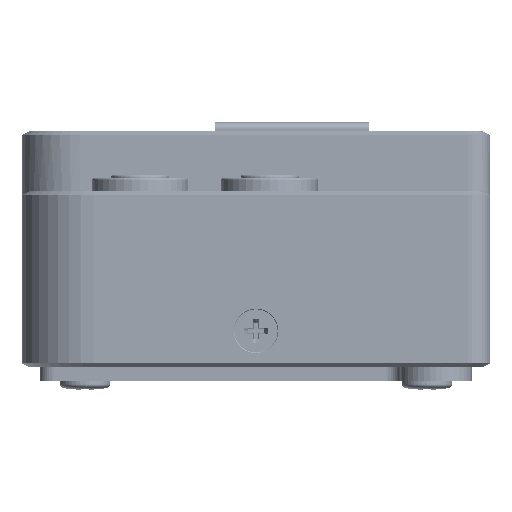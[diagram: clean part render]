
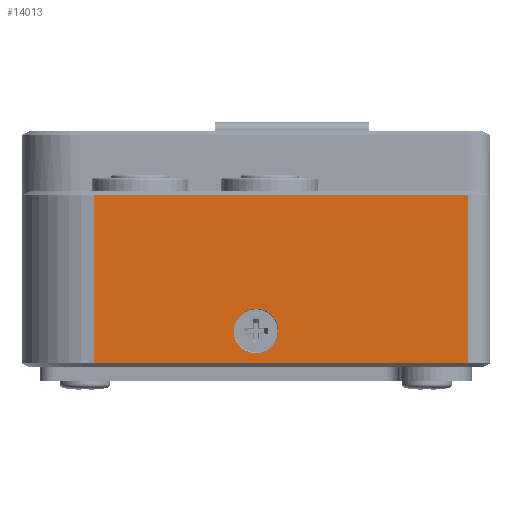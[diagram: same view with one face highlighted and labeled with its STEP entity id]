
A CAD part, left-side view. The second image highlights one B-rep face of the part: STEP entity #14013.
In plain terms, the highlighted planar face has unit normal (-1, 0, 0).
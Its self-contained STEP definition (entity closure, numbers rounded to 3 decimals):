
#686=DIRECTION('',(0.,-1.,0.));
#687=VECTOR('',#686,52.);
#688=CARTESIAN_POINT('',(-60.,21.5,-8.3));
#689=LINE('',#688,#687);
#693=DIRECTION('',(0.,1.,0.));
#694=VECTOR('',#693,52.);
#695=CARTESIAN_POINT('',(-60.,-30.5,
-31.7));
#696=LINE('',#695,#694);
#700=CARTESIAN_POINT('',(-60.,-1.,-27.2));
#701=DIRECTION('',(-1.,0.,0.));
#702=DIRECTION('',(0.,-1.,0.));
#703=AXIS2_PLACEMENT_3D('',#700,#701,#702);
#708=CARTESIAN_POINT('',(-60.,-1.,-27.2));
#709=DIRECTION('',(-1.,0.,0.));
#710=DIRECTION('',(0.,0.,1.));
#711=AXIS2_PLACEMENT_3D('',#708,#709,#710);
#716=CARTESIAN_POINT('',(-60.,-1.,-27.2));
#717=DIRECTION('',(-1.,0.,0.));
#718=DIRECTION('',(0.,1.,0.));
#719=AXIS2_PLACEMENT_3D('',#716,#717,#718);
#724=CARTESIAN_POINT('',(-60.,-1.,-27.2));
#725=DIRECTION('',(-1.,0.,0.));
#726=DIRECTION('',(0.,0.,-1.));
#727=AXIS2_PLACEMENT_3D('',#724,#725,#726);
#739=DIRECTION('',(0.,0.,1.));
#740=VECTOR('',#739,23.4);
#741=CARTESIAN_POINT('',(-60.,-30.5,
-31.7));
#742=LINE('',#741,#740);
#1114=DIRECTION('',(0.,0.,-1.));
#1115=VECTOR('',#1114,23.4);
#1116=CARTESIAN_POINT('',(-60.,21.5,
-8.3));
#1117=LINE('',#1116,#1115);
#11863=CARTESIAN_POINT('',(-60.,-30.5,-8.3));
#11864=VERTEX_POINT('',#11863);
#11903=CARTESIAN_POINT('',(-60.,21.5,
-8.3));
#11904=VERTEX_POINT('',#11903);
#11905=CARTESIAN_POINT('',(-60.,-30.5,
-31.7));
#11906=VERTEX_POINT('',#11905);
#11907=CARTESIAN_POINT('',(-60.,21.5,
-31.7));
#11908=VERTEX_POINT('',#11907);
#11909=CARTESIAN_POINT('',(-60.,-4.1,-27.199));
#11910=CARTESIAN_POINT('',(-60.,-1.,-24.1));
#11911=VERTEX_POINT('',#11909);
#11912=VERTEX_POINT('',#11910);
#11913=CARTESIAN_POINT('',(-60.,2.1,-27.201));
#11914=VERTEX_POINT('',#11913);
#11915=CARTESIAN_POINT('',(-60.,-1.,-30.3));
#11916=VERTEX_POINT('',#11915);
#13989=CARTESIAN_POINT('',(-60.,31.5,-32.2));
#13990=DIRECTION('',(-1.,0.,0.));
#13991=DIRECTION('',(0.,0.,-1.));
#13992=AXIS2_PLACEMENT_3D('',#13989,#13990,#13991);
#13993=PLANE('',#13992);
#13994=ORIENTED_EDGE('',*,*,#13982,.T.);
#13996=ORIENTED_EDGE('',*,*,#13995,.F.);
#13998=ORIENTED_EDGE('',*,*,#13997,.T.);
#14000=ORIENTED_EDGE('',*,*,#13999,.F.);
#14001=EDGE_LOOP('',(#13994,#13996,#13998,#14000));
#14002=FACE_OUTER_BOUND('',#14001,.F.);
#14004=ORIENTED_EDGE('',*,*,#14003,.T.);
#14006=ORIENTED_EDGE('',*,*,#14005,.T.);
#14008=ORIENTED_EDGE('',*,*,#14007,.T.);
#14010=ORIENTED_EDGE('',*,*,#14009,.T.);
#14011=EDGE_LOOP('',(#14004,#14006,#14008,#14010));
#14012=FACE_BOUND('',#14011,.F.);
#704=CIRCLE('',#703,3.1);
#712=CIRCLE('',#711,3.1);
#720=CIRCLE('',#719,3.1);
#728=CIRCLE('',#727,3.1);
#13982=EDGE_CURVE('',#11904,#11864,#689,.T.);
#13995=EDGE_CURVE('',#11906,#11864,#742,.T.);
#13997=EDGE_CURVE('',#11906,#11908,#696,.T.);
#13999=EDGE_CURVE('',#11904,#11908,#1117,.T.);
#14003=EDGE_CURVE('',#11911,#11912,#704,.T.);
#14005=EDGE_CURVE('',#11912,#11914,#712,.T.);
#14007=EDGE_CURVE('',#11914,#11916,#720,.T.);
#14009=EDGE_CURVE('',#11916,#11911,#728,.T.);
#14013=ADVANCED_FACE('',(#14002,#14012),#13993,.T.);
